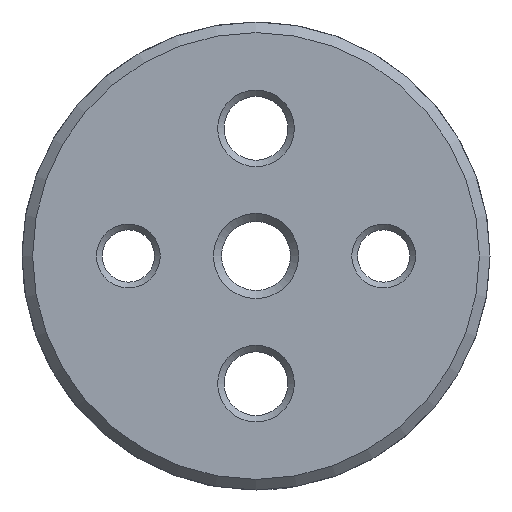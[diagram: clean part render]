
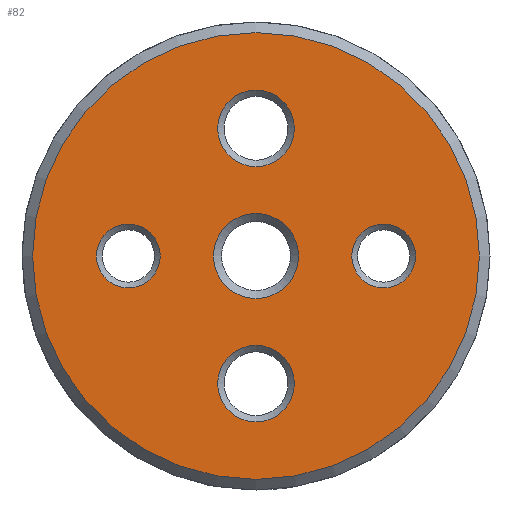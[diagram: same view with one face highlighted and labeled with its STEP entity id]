
A CAD part, front view. The second image highlights one B-rep face of the part: STEP entity #82.
In plain terms, the highlighted planar face has unit normal (0, -1, 0).
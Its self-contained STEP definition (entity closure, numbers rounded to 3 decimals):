
#82 = ADVANCED_FACE( '', ( #123, #124, #125, #126, #127, #128 ), #129, .F. );
#123 = FACE_BOUND( '', #211, .T. );
#124 = FACE_BOUND( '', #212, .T. );
#125 = FACE_BOUND( '', #213, .T. );
#126 = FACE_BOUND( '', #214, .T. );
#127 = FACE_BOUND( '', #215, .T. );
#128 = FACE_OUTER_BOUND( '', #216, .T. );
#129 = PLANE( '', #217 );
#211 = EDGE_LOOP( '', ( #341 ) );
#212 = EDGE_LOOP( '', ( #342 ) );
#213 = EDGE_LOOP( '', ( #343 ) );
#214 = EDGE_LOOP( '', ( #344 ) );
#215 = EDGE_LOOP( '', ( #345 ) );
#216 = EDGE_LOOP( '', ( #346 ) );
#217 = AXIS2_PLACEMENT_3D( '', #347, #348, #349 );
#341 = ORIENTED_EDGE( '', *, *, #506, .F. );
#342 = ORIENTED_EDGE( '', *, *, #507, .F. );
#343 = ORIENTED_EDGE( '', *, *, #508, .F. );
#344 = ORIENTED_EDGE( '', *, *, #509, .F. );
#345 = ORIENTED_EDGE( '', *, *, #510, .F. );
#346 = ORIENTED_EDGE( '', *, *, #505, .T. );
#347 = CARTESIAN_POINT( '', ( 10.5, 0., 0. ) );
#348 = DIRECTION( '', ( 0., 1., 0. ) );
#349 = DIRECTION( '', ( 0., 0., 1. ) );
#505 = EDGE_CURVE( '', #579, #579, #580, .T. );
#506 = EDGE_CURVE( '', #581, #581, #582, .T. );
#507 = EDGE_CURVE( '', #583, #583, #584, .F. );
#508 = EDGE_CURVE( '', #585, #585, #586, .T. );
#509 = EDGE_CURVE( '', #587, #587, #588, .T. );
#510 = EDGE_CURVE( '', #589, #589, #590, .T. );
#579 = VERTEX_POINT( '', #775 );
#580 = CIRCLE( '', #776, 10.5 );
#581 = VERTEX_POINT( '', #777 );
#582 = CIRCLE( '', #778, 2. );
#583 = VERTEX_POINT( '', #779 );
#584 = CIRCLE( '', #780, 1.5 );
#585 = VERTEX_POINT( '', #781 );
#586 = CIRCLE( '', #782, 1.8 );
#587 = VERTEX_POINT( '', #783 );
#588 = CIRCLE( '', #784, 1.8 );
#589 = VERTEX_POINT( '', #785 );
#590 = CIRCLE( '', #786, 1.5 );
#775 = CARTESIAN_POINT( '', ( 0., 0., -10.5 ) );
#776 = AXIS2_PLACEMENT_3D( '', #880, #881, #882 );
#777 = CARTESIAN_POINT( '', ( 0., 0., -2. ) );
#778 = AXIS2_PLACEMENT_3D( '', #883, #884, #885 );
#779 = CARTESIAN_POINT( '', ( 6., 0., 1.5 ) );
#780 = AXIS2_PLACEMENT_3D( '', #886, #887, #888 );
#781 = CARTESIAN_POINT( '', ( 0., 0., 4.2 ) );
#782 = AXIS2_PLACEMENT_3D( '', #889, #890, #891 );
#783 = CARTESIAN_POINT( '', ( 0., 0., -7.8 ) );
#784 = AXIS2_PLACEMENT_3D( '', #892, #893, #894 );
#785 = CARTESIAN_POINT( '', ( -6., 0., -1.5 ) );
#786 = AXIS2_PLACEMENT_3D( '', #895, #896, #897 );
#880 = CARTESIAN_POINT( '', ( 0., 0., 0. ) );
#881 = DIRECTION( '', ( 0., -1., 0. ) );
#882 = DIRECTION( '', ( 0., 0., -1. ) );
#883 = CARTESIAN_POINT( '', ( 0., 0., 0. ) );
#884 = DIRECTION( '', ( 0., -1., 0. ) );
#885 = DIRECTION( '', ( 0., 0., -1. ) );
#886 = CARTESIAN_POINT( '', ( 6., 0., 0. ) );
#887 = DIRECTION( '', ( 0., 1., 0. ) );
#888 = DIRECTION( '', ( 0., 0., 1. ) );
#889 = CARTESIAN_POINT( '', ( 0., 0., 6. ) );
#890 = DIRECTION( '', ( 0., -1., 0. ) );
#891 = DIRECTION( '', ( 0., 0., -1. ) );
#892 = CARTESIAN_POINT( '', ( 0., 0., -6. ) );
#893 = DIRECTION( '', ( 0., -1., 0. ) );
#894 = DIRECTION( '', ( 0., 0., -1. ) );
#895 = CARTESIAN_POINT( '', ( -6., 0., 0. ) );
#896 = DIRECTION( '', ( 0., -1., 0. ) );
#897 = DIRECTION( '', ( 0., 0., -1. ) );
